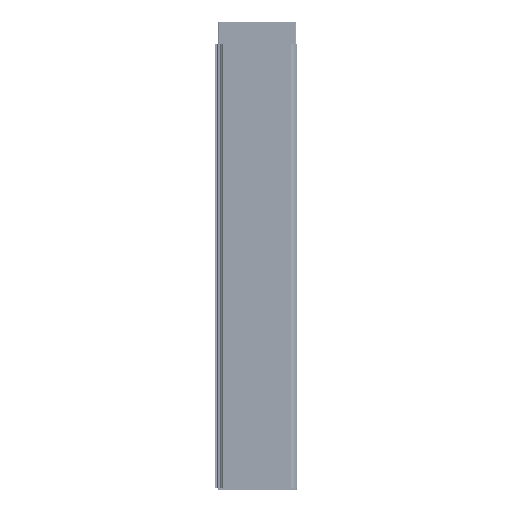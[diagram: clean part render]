
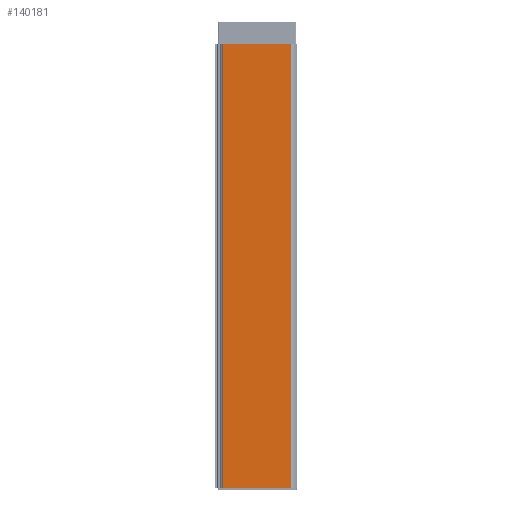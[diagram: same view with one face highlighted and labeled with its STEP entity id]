
A CAD part, front view. The second image highlights one B-rep face of the part: STEP entity #140181.
In plain terms, the highlighted planar face has unit normal (0, -1, 0).
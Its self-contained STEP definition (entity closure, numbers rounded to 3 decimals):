
#40 = DIRECTION ( 'NONE',  ( 1., 0., 0. ) ) ;
#10890 = VERTEX_POINT ( 'NONE', #104010 ) ;
#11895 = VECTOR ( 'NONE', #120532, 1000. ) ;
#16128 = EDGE_CURVE ( 'NONE', #168584, #132662, #32695, .T. ) ;
#19182 = AXIS2_PLACEMENT_3D ( 'NONE', #117320, #117917, #146590 ) ;
#20510 = LINE ( 'NONE', #82110, #88424 ) ;
#32695 = LINE ( 'NONE', #101567, #148669 ) ;
#45685 = EDGE_CURVE ( 'NONE', #10890, #181563, #69735, .T. ) ;
#54355 = VECTOR ( 'NONE', #40, 1000. ) ;
#63169 = EDGE_LOOP ( 'NONE', ( #64159, #168802, #128441, #139450 ) ) ;
#64159 = ORIENTED_EDGE ( 'NONE', *, *, #16128, .T. ) ;
#67578 = CARTESIAN_POINT ( 'NONE',  ( 29.878, -12.75, 0. ) ) ;
#69735 = LINE ( 'NONE', #114425, #54355 ) ;
#75142 = PLANE ( 'NONE',  #19182 ) ;
#82110 = CARTESIAN_POINT ( 'NONE',  ( -29.878, -12.75, -387. ) ) ;
#88424 = VECTOR ( 'NONE', #96246, 1000. ) ;
#90226 = EDGE_CURVE ( 'NONE', #132662, #10890, #20510, .T. ) ;
#96246 = DIRECTION ( 'NONE',  ( 0., 0., -1. ) ) ;
#101567 = CARTESIAN_POINT ( 'NONE',  ( 0., -12.75, 0. ) ) ;
#104010 = CARTESIAN_POINT ( 'NONE',  ( -29.878, -12.75, -387. ) ) ;
#114425 = CARTESIAN_POINT ( 'NONE',  ( 0., -12.75, -387. ) ) ;
#117320 = CARTESIAN_POINT ( 'NONE',  ( 0., -12.75, -387. ) ) ;
#117917 = DIRECTION ( 'NONE',  ( 0., -1., 0. ) ) ;
#120532 = DIRECTION ( 'NONE',  ( 0., 0., 1. ) ) ;
#128441 = ORIENTED_EDGE ( 'NONE', *, *, #45685, .T. ) ;
#132662 = VERTEX_POINT ( 'NONE', #159382 ) ;
#136833 = CARTESIAN_POINT ( 'NONE',  ( 29.878, -12.75, -387. ) ) ;
#139450 = ORIENTED_EDGE ( 'NONE', *, *, #141984, .T. ) ;
#140181 = ADVANCED_FACE ( 'NONE', ( #154673 ), #75142, .T. ) ;
#141984 = EDGE_CURVE ( 'NONE', #181563, #168584, #156267, .T. ) ;
#146590 = DIRECTION ( 'NONE',  ( 1., 0., 0. ) ) ;
#148669 = VECTOR ( 'NONE', #172437, 1000. ) ;
#149247 = CARTESIAN_POINT ( 'NONE',  ( 29.878, -12.75, -387. ) ) ;
#154673 = FACE_OUTER_BOUND ( 'NONE', #63169, .T. ) ;
#156267 = LINE ( 'NONE', #149247, #11895 ) ;
#159382 = CARTESIAN_POINT ( 'NONE',  ( -29.878, -12.75, 0. ) ) ;
#168584 = VERTEX_POINT ( 'NONE', #67578 ) ;
#168802 = ORIENTED_EDGE ( 'NONE', *, *, #90226, .T. ) ;
#172437 = DIRECTION ( 'NONE',  ( -1., 0., 0. ) ) ;
#181563 = VERTEX_POINT ( 'NONE', #136833 ) ;
